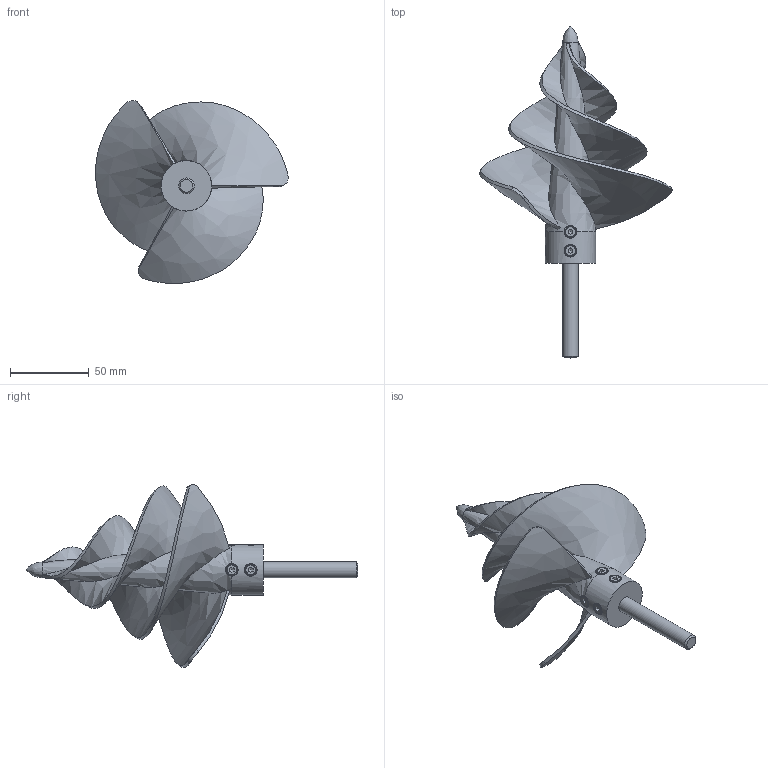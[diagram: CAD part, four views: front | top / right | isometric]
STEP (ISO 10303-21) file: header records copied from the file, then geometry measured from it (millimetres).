
FILE_DESCRIPTION(/* description */ (''),/* implementation_level */ '2;1');
FILE_NAME(/* name */ 'Assieme_turbina_Archimede.stp',/* time_stamp */ '2024-12-22T15:06:25+01:00',/* author */ ('R5800u'),/* organization */ (''),/* preprocessor_version */ 'ST-DEVELOPER v20',/* originating_system */ 'Autodesk Inventor 2025',/* authorisation */ '');
FILE_SCHEMA (('AUTOMOTIVE_DESIGN { 1 0 10303 214 3 1 1 }'));
Length unit declared in the file: millimetre
Products named in the file (4): Assieme2; elica3; albero10mm; AS 1420 - 1973 - M4 x 8
Assembly tree (6 placements, depth 2):
  Assieme2
    elica3
    albero10mm
    AS 1420 - 1973 - M4 x 8  x4
Bounding box: 122.35 x 210.5 x 116.06 mm (x, y, z)
Volume: 103147.2 mm3; surface area: 56344 mm2
Topology: 6 solids, 6 shells, 108 faces, 271 edges, 179 vertices
Faces by surface type: plane 44, cylinder 19, bspline 19, cone 17, torus 8, sphere 1
Full cylindrical faces by diameter (mm): 4 x4, 4.5 x4, 7 x4, 8 x4, 10 x2, 32 x1
Entity records: 5007 total; most frequent: CARTESIAN_POINT 3456, ORIENTED_EDGE 324, DIRECTION 234, EDGE_CURVE 162, VERTEX_POINT 107, AXIS2_PLACEMENT_3D 99, B_SPLINE_CURVE_WITH_KNOTS 74, EDGE_LOOP 73
